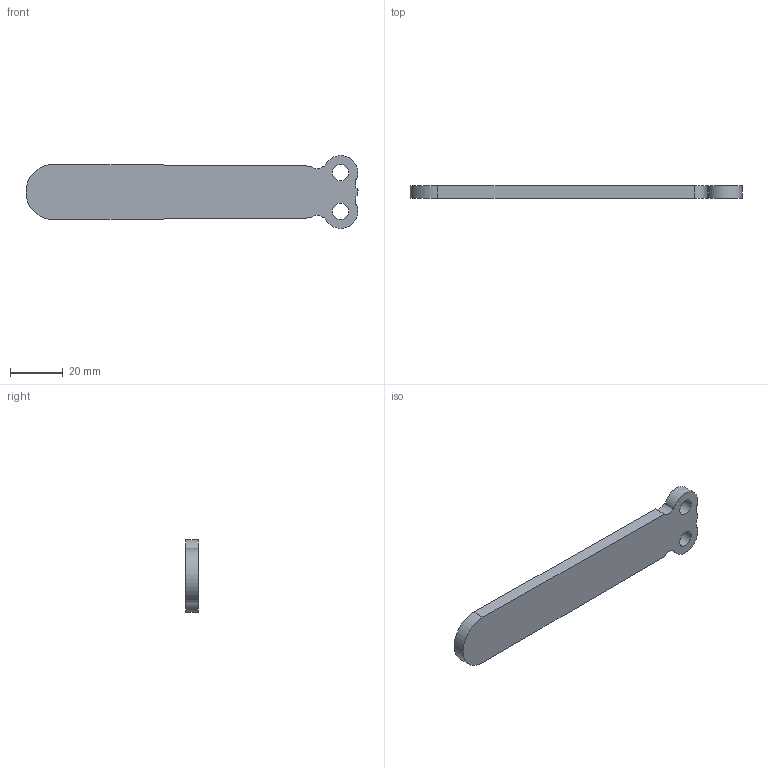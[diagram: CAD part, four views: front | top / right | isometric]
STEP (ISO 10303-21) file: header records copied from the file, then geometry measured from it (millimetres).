
FILE_DESCRIPTION(/* description */ (''),/* implementation_level */ '2;1');
FILE_NAME(/* name */ 'Blank Blade For Printed Screws.step',/* time_stamp */ '2024-01-29T15:07:07-06:00',/* author */ (''),/* organization */ (''),/* preprocessor_version */ 'ST-DEVELOPER v20',/* originating_system */ 'Autodesk Translation Framework v12.14.0.127',/* authorisation */ '');
FILE_SCHEMA (('AUTOMOTIVE_DESIGN { 1 0 10303 214 3 1 1 }'));
Length unit declared in the file: millimetre
Products named in the file (2): Final Balisong; Blade For Printed Screws 2 (1)
Assembly tree (1 placements, depth 2):
  Final Balisong
    Blade For Printed Screws 2 (1)
Bounding box: 125.57 x 4.8 x 27.59 mm (x, y, z)
Volume: 11970.6 mm3; surface area: 6569 mm2
Topology: 1 solids, 1 shells, 29 faces, 81 edges, 54 vertices
Faces by surface type: plane 16, cylinder 13
Full cylindrical faces by diameter (mm): 6.2 x2
Entity records: 1009 total; most frequent: DIRECTION 171, CARTESIAN_POINT 167, ORIENTED_EDGE 162, EDGE_CURVE 81, AXIS2_PLACEMENT_3D 58, LINE 55, VECTOR 55, VERTEX_POINT 54
